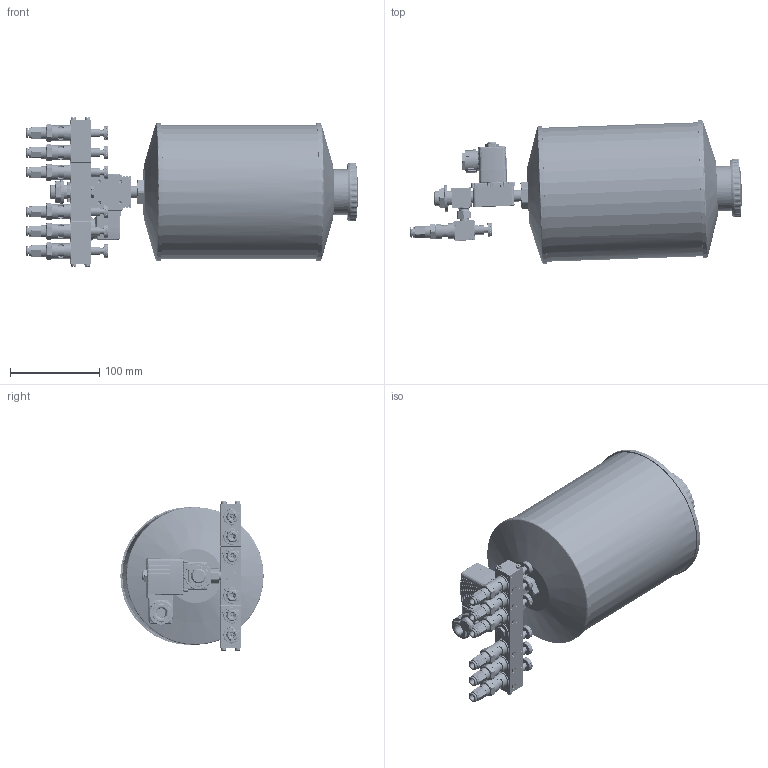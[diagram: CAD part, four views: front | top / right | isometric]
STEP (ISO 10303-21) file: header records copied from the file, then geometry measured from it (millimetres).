
FILE_DESCRIPTION (( 'STEP AP214' ), '1' );
FILE_NAME ('TRO_03_03_06_XXX.STEP', '2025-11-24T15:16:33', ( '' ), ( '' ), 'SwSTEP 2.0', 'SolidWorks 2022', '' );
FILE_SCHEMA (( 'AUTOMOTIVE_DESIGN' ));
Length unit declared in the file: millimetre
Products named in the file (20): TRO_2er; OR 7.2X1.9_1; TRO_2er_mittel; DR6_NEU; R200107-N1; OR 7.66X1.78; TRO_Endplatte; TRO_2er_mittel_Mit_Verschr.SLDPRT; 9911 0701 0601_6_1_8_HD; TRO_Behaelter_03; TRO_Magnetventil_ohne; TRO_Magnetventil_aktuell; DR6-C_HDX_25.07.16; RIVOLUZIONE_0; TRO_Stutzen.SLDPRT; TRO_1er_Mit_Verschr.SLDPRT; TRO_03_03_06_XXX; TRO_Magnetventil_Stecker
Assembly tree (21 placements, depth 4):
  OR 7.2X1.9_1
  DR6_NEU
  R200107-N1
  TRO_2er_mittel
  TRO_03_03_06_XXX
    TRO_2er_mittel_Mit_Verschr.SLDPRT
      TRO_Stutzen.SLDPRT
        TRO_2er_mittel
      TRO_2er
      9911 0701 0601_6_1_8_HD  x2
        RIVOLUZIONE_0
        OR 7.66X1.78
        DR6-C_HDX_25.07.16
    TRO_1er_Mit_Verschr.SLDPRT  x4
      TRO_2er
      9911 0701 0601_6_1_8_HD
        RIVOLUZIONE_0
        OR 7.66X1.78
        DR6-C_HDX_25.07.16
    TRO_Magnetventil_aktuell
      TRO_Magnetventil_ohne
      TRO_Magnetventil_Stecker
    TRO_Endplatte  x2
    TRO_Behaelter_03
Bounding box: 371.57 x 160.4 x 166.8 mm (x, y, z)
Volume: 600359.6 mm3; surface area: 408929 mm2
Topology: 39 solids, 39 shells, 8147 faces, 21083 edges, 13144 vertices
Faces by surface type: bspline 3124, plane 2914, cylinder 1374, cone 732, torus 3
Full cylindrical faces by diameter (mm): 1.5 x6, 2 x6, 3.5 x10, 3.8 x6, 4.2 x6, 4.5 x6, 5.5 x4, 5.9 x12, 6 x2, 6.2 x6, 6.25 x1, 6.3 x6, 6.75 x1, 7 x7, 7.2 x6, 7.4 x1, 8 x2, 8.3 x6, 8.4 x1, 8.5 x1, 8.6 x9, 8.8 x1, 9 x7, 9.2 x1, 9.5 x6, 9.728 x6, 9.8 x1, 9.9 x6, 10 x16, 10.1 x1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
Entity records: 313297 total; most frequent: CARTESIAN_POINT 170839, ORIENTED_EDGE 32198, DIRECTION 18640, EDGE_CURVE 16099, VERTEX_POINT 10212, B_SPLINE_CURVE_WITH_KNOTS 7533, AXIS2_PLACEMENT_3D 7008, EDGE_LOOP 6977
